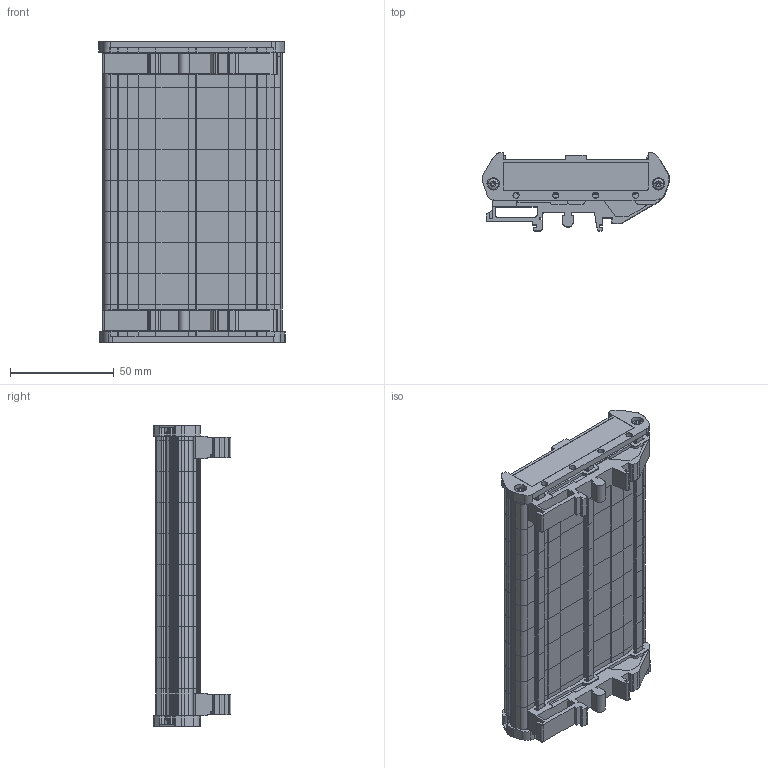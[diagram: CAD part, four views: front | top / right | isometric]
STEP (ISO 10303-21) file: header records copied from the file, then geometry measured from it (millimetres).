
FILE_DESCRIPTION(('FreeCAD Model'),'2;1');
FILE_NAME('C:/Users/Tino Hellberg/works/kiskopohjat/EM-KP72-142.step', '2019-11-12T10:31:35',('Author'),(''), 'Open CASCADE STEP processor 7.3','FreeCAD','Unknown');
FILE_SCHEMA(('AUTOMOTIVE_DESIGN { 1 0 10303 214 1 1 1 1 }'));
Length unit declared in the file: millimetre
Products named in the file (9): UM_72-SE_H.Select__00276902; Schr.Lins._3x14-Z_01151118; Schr.Lins._3x14-Z_01151119; UM_72-FE_H.Select__00359175; UM_72-SE_H.Select__00461501; Schr.Lins._3x14-Z_01151120; Schr.Lins._3x14-Z_01151121; UM_72-FE_H.Select__00359177; Cut
Bounding box: 89.82 x 37.6 x 145 mm (x, y, z)
Volume: 68112.3 mm3; surface area: 68467.1 mm2
Topology: 9 solids, 9 shells, 2930 faces, 7084 edges, 4172 vertices
Faces by surface type: plane 1624, cylinder 1244, cone 36, bspline 10, sphere 8, torus 8
Entity records: 243775 total; most frequent: CARTESIAN_POINT 101331, DIRECTION 26781, LINE 16821, VECTOR 16821, ORIENTED_EDGE 14152, PCURVE 14152, DEFINITIONAL_REPRESENTATION 14152, EDGE_CURVE 7076
